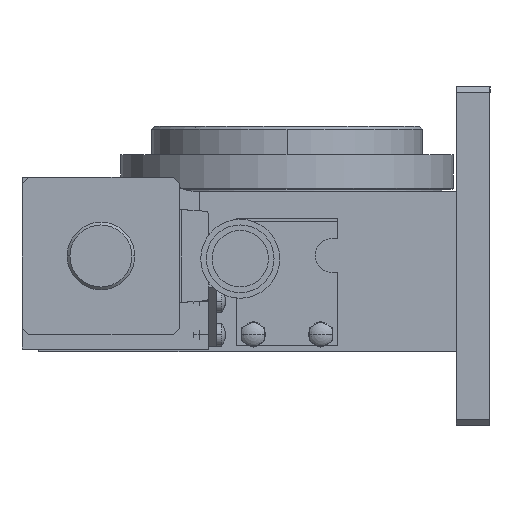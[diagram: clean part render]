
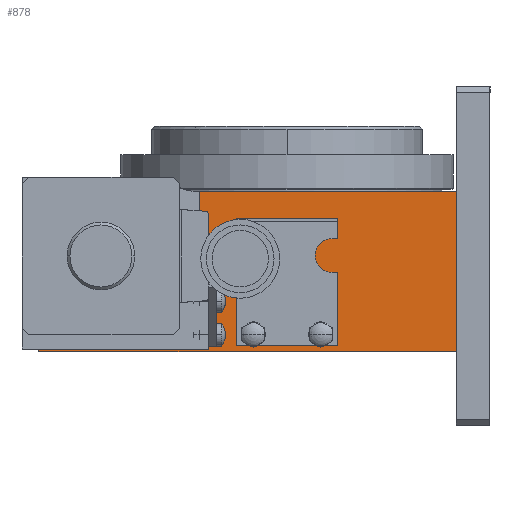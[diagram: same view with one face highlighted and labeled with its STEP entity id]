
A CAD part, left-side view. The second image highlights one B-rep face of the part: STEP entity #878.
In plain terms, the highlighted planar face has unit normal (-1, 0, 0).
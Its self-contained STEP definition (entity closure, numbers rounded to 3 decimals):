
#878=ADVANCED_FACE('',(#1671,#1672,#1673),#1674,.F.);
#1671=FACE_BOUND('',#2840,.T.);
#1672=FACE_OUTER_BOUND('',#2841,.T.);
#1673=FACE_BOUND('',#2842,.T.);
#1674=PLANE('',#2843);
#2840=EDGE_LOOP('',(#5343,#5344,#5345,#5346,#5347,#5348));
#2841=EDGE_LOOP('',(#5349,#5350,#5351,#5352));
#2842=EDGE_LOOP('',(#5353,#5354,#5355,#5356,#5357,#5358));
#2843=AXIS2_PLACEMENT_3D('',#5359,#5360,#5361);
#5343=ORIENTED_EDGE('',*,*,#8328,.F.);
#5344=ORIENTED_EDGE('',*,*,#8329,.F.);
#5345=ORIENTED_EDGE('',*,*,#8330,.F.);
#5346=ORIENTED_EDGE('',*,*,#8331,.F.);
#5347=ORIENTED_EDGE('',*,*,#8332,.F.);
#5348=ORIENTED_EDGE('',*,*,#8333,.F.);
#5349=ORIENTED_EDGE('',*,*,#8334,.T.);
#5350=ORIENTED_EDGE('',*,*,#8335,.F.);
#5351=ORIENTED_EDGE('',*,*,#8336,.F.);
#5352=ORIENTED_EDGE('',*,*,#8337,.T.);
#5353=ORIENTED_EDGE('',*,*,#8338,.F.);
#5354=ORIENTED_EDGE('',*,*,#8325,.F.);
#5355=ORIENTED_EDGE('',*,*,#8339,.F.);
#5356=ORIENTED_EDGE('',*,*,#8340,.F.);
#5357=ORIENTED_EDGE('',*,*,#8341,.F.);
#5358=ORIENTED_EDGE('',*,*,#8342,.F.);
#5359=CARTESIAN_POINT('',(-30.0,44.0,28.5));
#5360=DIRECTION('',(1.0,0.0,0.0));
#5361=DIRECTION('',(0.0,1.0,0.0));
#8325=EDGE_CURVE('',#10053,#10054,#10055,.T.);
#8328=EDGE_CURVE('',#10058,#10059,#10060,.T.);
#8329=EDGE_CURVE('',#10061,#10058,#10062,.T.);
#8330=EDGE_CURVE('',#10063,#10061,#10064,.T.);
#8331=EDGE_CURVE('',#10065,#10063,#10066,.T.);
#8332=EDGE_CURVE('',#10067,#10065,#10068,.T.);
#8333=EDGE_CURVE('',#10059,#10067,#10069,.T.);
#8334=EDGE_CURVE('',#10070,#10071,#10072,.T.);
#8335=EDGE_CURVE('',#10073,#10071,#10074,.T.);
#8336=EDGE_CURVE('',#10075,#10073,#10076,.T.);
#8337=EDGE_CURVE('',#10075,#10070,#10077,.T.);
#8338=EDGE_CURVE('',#10054,#10078,#10079,.T.);
#8339=EDGE_CURVE('',#10080,#10053,#10081,.T.);
#8340=EDGE_CURVE('',#10082,#10080,#10083,.T.);
#8341=EDGE_CURVE('',#10084,#10082,#10085,.T.);
#8342=EDGE_CURVE('',#10078,#10084,#10086,.T.);
#10053=VERTEX_POINT('',#12553);
#10054=VERTEX_POINT('',#12554);
#10055=LINE('',#12555,#12556);
#10058=VERTEX_POINT('',#12561);
#10059=VERTEX_POINT('',#12562);
#10060=LINE('',#12563,#12564);
#10061=VERTEX_POINT('',#12565);
#10062=LINE('',#12566,#12567);
#10063=VERTEX_POINT('',#12568);
#10064=LINE('',#12569,#12570);
#10065=VERTEX_POINT('',#12571);
#10066=LINE('',#12572,#12573);
#10067=VERTEX_POINT('',#12574);
#10068=LINE('',#12575,#12576);
#10069=LINE('',#12577,#12578);
#10070=VERTEX_POINT('',#12579);
#10071=VERTEX_POINT('',#12580);
#10072=LINE('',#12581,#12582);
#10073=VERTEX_POINT('',#12583);
#10074=LINE('',#12584,#12585);
#10075=VERTEX_POINT('',#12586);
#10076=LINE('',#12587,#12588);
#10077=LINE('',#12589,#12590);
#10078=VERTEX_POINT('',#12591);
#10079=LINE('',#12592,#12593);
#10080=VERTEX_POINT('',#12594);
#10081=LINE('',#12595,#12596);
#10082=VERTEX_POINT('',#12597);
#10083=LINE('',#12598,#12599);
#10084=VERTEX_POINT('',#12600);
#10085=LINE('',#12601,#12602);
#10086=LINE('',#12603,#12604);
#12553=CARTESIAN_POINT('',(-30.0,6.0,5.409));
#12554=CARTESIAN_POINT('',(-30.0,8.0,4.255));
#12555=CARTESIAN_POINT('',(-30.0,6.0,5.409));
#12556=VECTOR('',#15321,1000.0);
#12561=CARTESIAN_POINT('',(-30.0,-4.0,4.255));
#12562=CARTESIAN_POINT('',(-30.0,-4.0,1.945));
#12563=CARTESIAN_POINT('',(-30.0,-4.0,4.255));
#12564=VECTOR('',#15324,1000.0);
#12565=CARTESIAN_POINT('',(-30.0,-6.0,5.409));
#12566=CARTESIAN_POINT('',(-30.0,-6.0,5.409));
#12567=VECTOR('',#15325,1000.0);
#12568=CARTESIAN_POINT('',(-30.0,-8.0,4.255));
#12569=CARTESIAN_POINT('',(-30.0,-8.0,4.255));
#12570=VECTOR('',#15326,1000.0);
#12571=CARTESIAN_POINT('',(-30.0,-8.0,1.945));
#12572=CARTESIAN_POINT('',(-30.0,-8.0,1.945));
#12573=VECTOR('',#15327,1000.0);
#12574=CARTESIAN_POINT('',(-30.0,-6.0,0.791));
#12575=CARTESIAN_POINT('',(-30.0,-6.0,0.791));
#12576=VECTOR('',#15328,1000.0);
#12577=CARTESIAN_POINT('',(-30.0,-4.0,1.945));
#12578=VECTOR('',#15329,1000.0);
#12579=CARTESIAN_POINT('',(-30.0,44.0,0.0));
#12580=CARTESIAN_POINT('',(-30.0,-30.0,0.0));
#12581=CARTESIAN_POINT('',(-30.0,44.0,0.0));
#12582=VECTOR('',#15330,1000.0);
#12583=CARTESIAN_POINT('',(-30.0,-30.0,28.5));
#12584=CARTESIAN_POINT('',(-30.0,-30.0,28.5));
#12585=VECTOR('',#15331,1000.0);
#12586=CARTESIAN_POINT('',(-30.0,44.0,28.5));
#12587=CARTESIAN_POINT('',(-30.0,44.0,28.5));
#12588=VECTOR('',#15332,1000.0);
#12589=CARTESIAN_POINT('',(-30.0,44.0,28.5));
#12590=VECTOR('',#15333,1000.0);
#12591=CARTESIAN_POINT('',(-30.0,8.0,1.945));
#12592=CARTESIAN_POINT('',(-30.0,8.0,4.255));
#12593=VECTOR('',#15334,1000.0);
#12594=CARTESIAN_POINT('',(-30.0,4.0,4.255));
#12595=CARTESIAN_POINT('',(-30.0,4.0,4.255));
#12596=VECTOR('',#15335,1000.0);
#12597=CARTESIAN_POINT('',(-30.0,4.0,1.945));
#12598=CARTESIAN_POINT('',(-30.0,4.0,1.945));
#12599=VECTOR('',#15336,1000.0);
#12600=CARTESIAN_POINT('',(-30.0,6.0,0.791));
#12601=CARTESIAN_POINT('',(-30.0,6.0,0.791));
#12602=VECTOR('',#15337,1000.0);
#12603=CARTESIAN_POINT('',(-30.0,8.0,1.945));
#12604=VECTOR('',#15338,1000.0);
#15321=DIRECTION('',(0.0,0.866,-0.5));
#15324=DIRECTION('',(0.0,0.0,-1.0));
#15325=DIRECTION('',(0.0,0.866,-0.5));
#15326=DIRECTION('',(0.0,0.866,0.5));
#15327=DIRECTION('',(0.0,0.0,1.0));
#15328=DIRECTION('',(0.0,-0.866,0.5));
#15329=DIRECTION('',(0.0,-0.866,-0.5));
#15330=DIRECTION('',(0.0,-1.0,0.0));
#15331=DIRECTION('',(0.0,0.0,-1.0));
#15332=DIRECTION('',(0.0,-1.0,0.0));
#15333=DIRECTION('',(0.0,0.0,-1.0));
#15334=DIRECTION('',(0.0,0.0,-1.0));
#15335=DIRECTION('',(0.0,0.866,0.5));
#15336=DIRECTION('',(0.0,0.0,1.0));
#15337=DIRECTION('',(0.0,-0.866,0.5));
#15338=DIRECTION('',(0.0,-0.866,-0.5));
